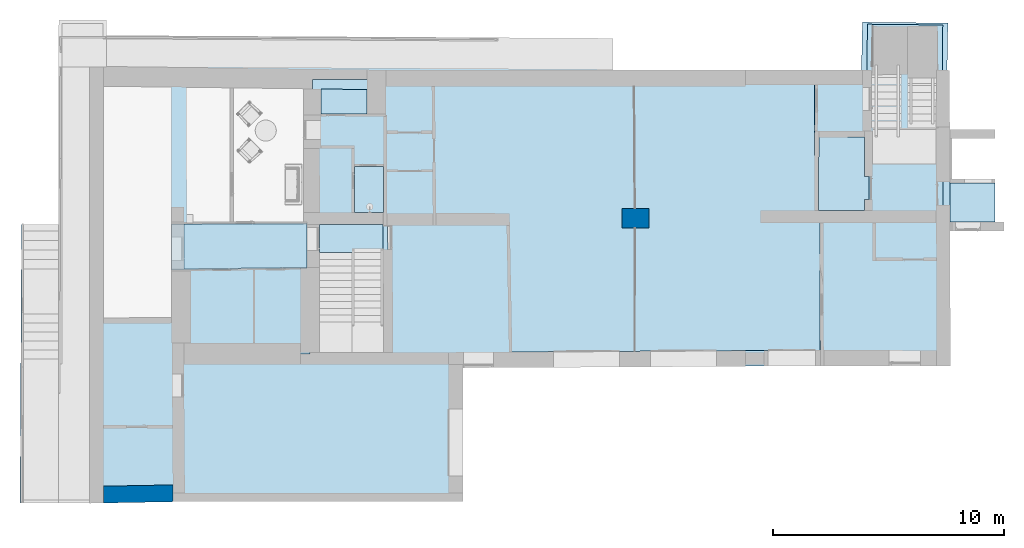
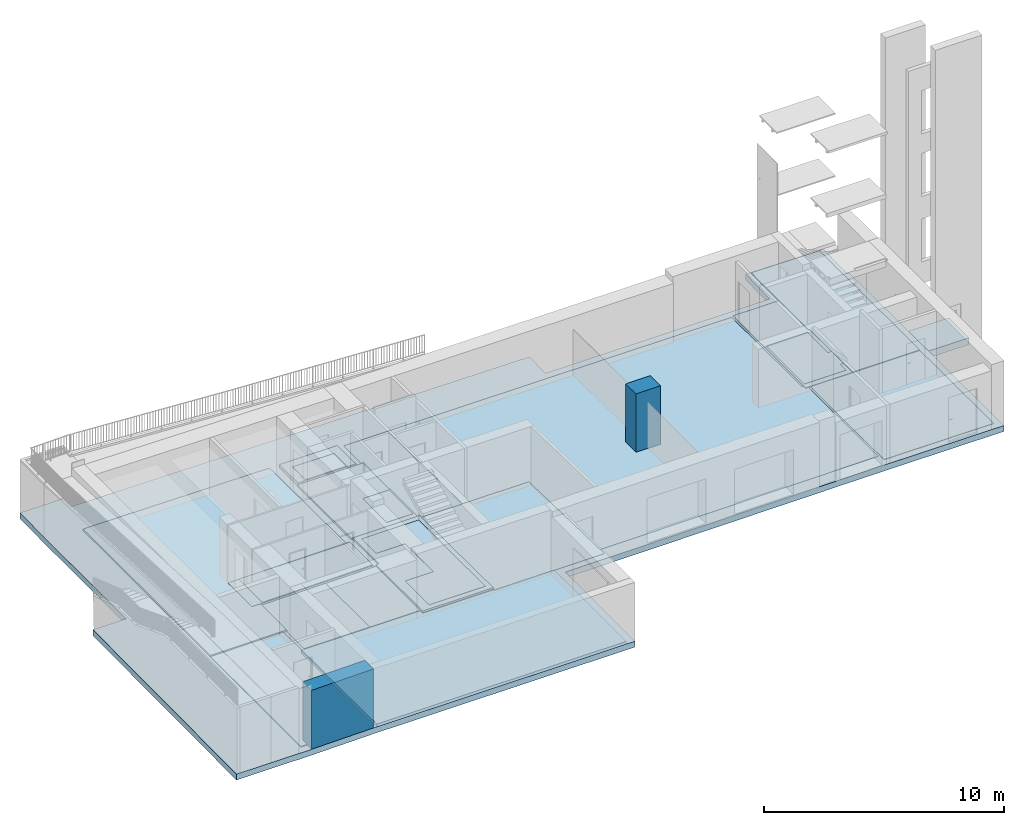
# One storey, part 1 of 17: 22 slabs, 1 column, 1 wall.
"""IFC2X3 building model written with IfcOpenShell, lengths in millimetres."""

from ifc_helpers import new_model, entity, si_unit, converted_unit, derived_unit, direction, frame, frame_2d, origin, origin_2d_with_axis, place, context, subcontext, project, spatial, polyline, rectangle, outline, extrude, clip, bounded_halfspace, source, transform, mapped, material, layer, layer_set, layer_usage, type_object, type_shapes, element, save


model = new_model("IFC2X3")

# Units and contexts
model_context = context("Model", 3, precision=0.01, world=origin(), true_north=direction((6.12303176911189e-17, 1.0)))
context_of_model = context(None, 3, precision=0.01, world=origin(), true_north=direction((6.12303176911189e-17, 1.0)))
body_context = subcontext(model_context, "Body", "Model", "MODEL_VIEW")
ifc_project = project(units=[si_unit("LENGTHUNIT", "METRE", prefix="MILLI"), si_unit("AREAUNIT", "SQUARE_METRE"), si_unit("VOLUMEUNIT", "CUBIC_METRE"), converted_unit("PLANEANGLEUNIT", "DEGREE", entity("IfcRatioMeasure", 0.0174532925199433), si_unit("PLANEANGLEUNIT", "RADIAN"), dimensions=[0, 0, 0, 0, 0, 0, 0]), si_unit("MASSUNIT", "GRAM", prefix="KILO"), derived_unit("MASSDENSITYUNIT", [(si_unit("MASSUNIT", "GRAM", prefix="KILO"), 1), (si_unit("LENGTHUNIT", "METRE"), -3)]), si_unit("TIMEUNIT", "SECOND"), si_unit("FREQUENCYUNIT", "HERTZ"), si_unit("THERMODYNAMICTEMPERATUREUNIT", "DEGREE_CELSIUS"), derived_unit("THERMALTRANSMITTANCEUNIT", [(si_unit("MASSUNIT", "GRAM", prefix="KILO"), 1), (si_unit("THERMODYNAMICTEMPERATUREUNIT", "KELVIN"), -1), (si_unit("TIMEUNIT", "SECOND"), -3)]), derived_unit("VOLUMETRICFLOWRATEUNIT", [(si_unit("LENGTHUNIT", "METRE"), 3), (si_unit("TIMEUNIT", "SECOND"), -1)]), si_unit("ELECTRICCURRENTUNIT", "AMPERE"), si_unit("ELECTRICVOLTAGEUNIT", "VOLT"), si_unit("POWERUNIT", "WATT"), si_unit("FORCEUNIT", "NEWTON", prefix="KILO"), si_unit("ILLUMINANCEUNIT", "LUX"), si_unit("LUMINOUSFLUXUNIT", "LUMEN"), si_unit("LUMINOUSINTENSITYUNIT", "CANDELA"), derived_unit("USERDEFINED", [(si_unit("MASSUNIT", "GRAM", prefix="KILO"), -1), (si_unit("LENGTHUNIT", "METRE"), -2), (si_unit("TIMEUNIT", "SECOND"), 3), (si_unit("LUMINOUSFLUXUNIT", "LUMEN"), 1)]), derived_unit("LINEARVELOCITYUNIT", [(si_unit("LENGTHUNIT", "METRE"), 1), (si_unit("TIMEUNIT", "SECOND"), -1)]), si_unit("PRESSUREUNIT", "PASCAL"), derived_unit("USERDEFINED", [(si_unit("LENGTHUNIT", "METRE"), -2), (si_unit("MASSUNIT", "GRAM", prefix="KILO"), 1), (si_unit("TIMEUNIT", "SECOND"), -2)])], contexts=[model_context, context_of_model])

# Site, building, storey
site_placement = place(None, frame((121442.264707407, 135347.995453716, -1800.0)))
site = spatial("IfcSite", under=ifc_project, at=site_placement, Name="Surface", CompositionType="ELEMENT")
building_placement = place(site_placement, origin())
building = spatial("IfcBuilding", under=site, at=building_placement, CompositionType="ELEMENT")
storey_placement = place(building_placement, frame((0.0, 0.0, -1490.0)))
storey = spatial("IfcBuildingStorey", under=building, at=storey_placement, Name="Kelder", CompositionType="ELEMENT", Elevation=-1489.99999999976)

# Column
column_type = type_object("IfcColumnType", Name="Columns 6", PredefinedType="COLUMN")
shared_shape = source(origin(), body_context, "Body", "SweptSolid", [
    extrude(rectangle(XDim=851.392345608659, YDim=1179.41481189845, at=frame_2d((-8.66862137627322e-12, -8.64019966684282e-12), x_axis=(1.0, 0.0))), frame((-95603.5192616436, -121278.149282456, -1490.0), z_axis=(0.0, 0.0, 1.0), x_axis=(0.0, -1.0, 0.0)), (0.0, 0.0, 1.0), 2970.1543988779),
])
type_shapes(column_type, [shared_shape])
column_placement = place(storey_placement, frame((0.0, 0.0, 1490.0)))
element("IfcColumn", 1, at=column_placement, inside=storey, type_object=column_type, Name="Columns 6:Columns 6", ObjectType="Columns 6", context=body_context, shape_type="MappedRepresentation", body=[
    mapped(shared_shape, transform((0.0, 0.0, 0.0), scale=1.0)),
])

# Slabs
ifc_material_1 = material(Name="Concrete - Cast In Situ")
ifc_layer_1 = layer(ifc_material_1, 150.0)
ifc_layer_set_1 = layer_set([ifc_layer_1], Name="Floor:Generic 150mm")
ifc_layer_usage_1 = layer_usage(ifc_layer_set_1, "AXIS3", "POSITIVE", 0.0)
slab_1_placement = place(storey_placement, origin())
element("IfcSlab", 2, at=slab_1_placement, inside=storey, material=ifc_layer_usage_1, Name="Floor:Generic 150mm", ObjectType="Floor:Generic 150mm", PredefinedType="FLOOR", context=body_context, shape_type="SweptSolid", body=[
    extrude(outline(polyline([(-4255.90683201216, -4043.49359627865), (6352.14022453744, -4043.49359627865), (6301.7931967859, 4894.15796776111), (-5.12348534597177, 4926.68577573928), (-57.2377191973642, -508.464137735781), (-2052.46510422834, -508.464137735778), (-2050.68669492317, -358.464137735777), (-4232.51358561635, -358.464137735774), (-4255.90683201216, -4043.49359627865)])), frame((-114941.237681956, -121469.799587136, 87.0), z_axis=(0.0, 0.0, -1.0), x_axis=(0.0, 1.0, 0.0)), (0.0, 0.0, 1.0), 150.0),
])
ifc_layer_usage_2 = layer_usage(ifc_layer_set_1, "AXIS3", "POSITIVE", 0.0)
slab_2_placement = place(storey_placement, origin())
element("IfcSlab", 3, at=slab_2_placement, inside=storey, material=ifc_layer_usage_2, Name="Floor:Generic 150mm", ObjectType="Floor:Generic 150mm", PredefinedType="FLOOR", context=body_context, shape_type="SweptSolid", body=[
    extrude(outline(polyline([(-3793.27666224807, -1776.43241651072), (3748.98435681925, -1776.43241651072), (3771.35729410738, 1747.87248696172), (-3727.06498867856, 1804.99234605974), (-3793.27666224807, -1776.43241651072)])), frame((-117208.298861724, -129474.690775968, 30.0), z_axis=(0.0, 0.0, -1.0), x_axis=(0.0, 1.0, 0.0)), (0.0, 0.0, 1.0), 150.0),
])
ifc_layer_usage_3 = layer_usage(ifc_layer_set_1, "AXIS3", "POSITIVE", 0.0)
slab_3_placement = place(storey_placement, origin())
element("IfcSlab", 4, at=slab_3_placement, inside=storey, material=ifc_layer_usage_3, Name="Floor:Generic 150mm", ObjectType="Floor:Generic 150mm", PredefinedType="FLOOR", context=body_context, shape_type="SweptSolid", body=[
    extrude(outline(polyline([(-1028.67064356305, -2940.27686933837), (966.556741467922, -2940.27686933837), (1021.06433573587, 2940.27686933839), (-958.950433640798, 2940.27686933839), (-1028.67064356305, -2940.27686933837)])), frame((-112779.510747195, -122493.594047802, 87.0), z_axis=(0.0, 0.0, -1.0), x_axis=(0.0, 1.0, 0.0)), (0.0, 0.0, 1.0), 150.0),
])
ifc_layer_usage_4 = layer_usage(ifc_layer_set_1, "AXIS3", "POSITIVE", 0.0)
slab_4_placement = place(storey_placement, origin())
element("IfcSlab", 5, at=slab_4_placement, inside=storey, material=ifc_layer_usage_4, Name="Floor:Generic 150mm", ObjectType="Floor:Generic 150mm", PredefinedType="FLOOR", context=body_context, shape_type="SweptSolid", body=[
    extrude(outline(polyline([(-1826.235584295, -1576.3807147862), (1807.58177050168, -1576.3807147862), (1844.88939808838, 1570.33254283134), (-1826.23558429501, 1582.42888674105), (-1826.235584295, -1576.3807147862)])), frame((-113723.321104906, -125328.068052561, 5.0), z_axis=(0.0, 0.0, -1.0), x_axis=(0.0, 1.0, 0.0)), (0.0, 0.0, 1.0), 150.0),
])
ifc_layer_usage_5 = layer_usage(ifc_layer_set_1, "AXIS3", "POSITIVE", 0.0)
slab_5_placement = place(storey_placement, origin())
element("IfcSlab", 6, at=slab_5_placement, inside=storey, material=ifc_layer_usage_5, Name="Floor:Generic 150mm", ObjectType="Floor:Generic 150mm", PredefinedType="FLOOR", context=body_context, shape_type="SweptSolid", body=[
    extrude(outline(polyline([(-1216.39615455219, -1842.79125220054), (1210.34798259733, -1842.79125220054), (1222.44432650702, 1828.33373018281), (-1216.39615455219, 1857.24877421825), (-1216.39615455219, -1842.79125220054)])), frame((-110930.544235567, -125311.512384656, 0.0), z_axis=(0.0, 0.0, -1.0), x_axis=(-1.0, 0.0, 0.0)), (0.0, 0.0, 1.0), 150.0),
])
ifc_layer_usage_6 = layer_usage(ifc_layer_set_1, "AXIS3", "POSITIVE", 0.0)
slab_6_placement = place(storey_placement, origin())
element("IfcSlab", 7, at=slab_6_placement, inside=storey, material=ifc_layer_usage_6, Name="Floor:Generic 150mm", ObjectType="Floor:Generic 150mm", PredefinedType="FLOOR", context=body_context, shape_type="SweptSolid", body=[
    extrude(outline(polyline([(-1941.10510477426, -6117.88267628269), (4078.16335306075, -6117.88267628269), (4086.25706603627, 5890.9759524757), (-2141.10510477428, 5938.41340482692), (-2141.10510477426, 203.187997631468), (-1941.10510477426, 203.187997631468), (-1941.10510477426, -6117.88267628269)])), frame((-109510.960083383, -129295.40874163, -20.0), z_axis=(0.0, 0.0, -1.0), x_axis=(0.0, -1.0, 0.0)), (0.0, 0.0, 1.0), 150.0),
])
ifc_layer_usage_7 = layer_usage(ifc_layer_set_1, "AXIS3", "POSITIVE", 0.0)
slab_7_placement = place(storey_placement, origin())
element("IfcSlab", 8, at=slab_7_placement, inside=storey, material=ifc_layer_usage_7, Name="Floor:Generic 150mm", ObjectType="Floor:Generic 150mm", PredefinedType="FLOOR", context=body_context, shape_type="SweptSolid", body=[
    extrude(outline(polyline([(-3323.15159180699, -1175.15384664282), (576.888434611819, -1175.15384664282), (578.607563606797, -1030.15384664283), (2745.4035926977, -1030.15384664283), (2745.4035926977, 2188.57523780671), (-3323.15159180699, 2222.0401487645), (-3323.15159180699, -1175.15384664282)])), frame((-108538.994234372, -124031.152045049, 87.0), z_axis=(0.0, 0.0, -1.0), x_axis=(0.0, 1.0, 0.0)), (0.0, 0.0, 1.0), 150.0),
])
ifc_layer_2 = layer(ifc_material_1, 200.0)
ifc_layer_set_2 = layer_set([ifc_layer_2], Name="Floor:Generic 2000mm 2")
ifc_layer_usage_8 = layer_usage(ifc_layer_set_2, "AXIS3", "POSITIVE", 0.0)
slab_8_placement = place(storey_placement, origin())
element("IfcSlab", 9, at=slab_8_placement, inside=storey, material=ifc_layer_usage_8, Name="Floor:Generic 2000mm 2", ObjectType="Floor:Generic 2000mm 2", PredefinedType="FLOOR", context=body_context, shape_type="SweptSolid", body=[
    extrude(outline(polyline([(-779.546561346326, -1388.59745723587), (774.070192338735, -1388.59745723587), (774.070192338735, 1383.56877207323), (-768.593823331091, 1393.62614239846), (-779.546561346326, -1388.59745723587)])), frame((-108227.713183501, -116028.23160626, 165.0), z_axis=(0.0, 0.0, -1.0), x_axis=(0.0, 1.0, 0.0)), (0.0, 0.0, 1.0), 200.0),
])
ifc_layer_3 = layer(ifc_material_1, 250.0)
ifc_layer_set_3 = layer_set([ifc_layer_3], Name="Floor:Generic 250mm 3")
ifc_layer_usage_9 = layer_usage(ifc_layer_set_3, "AXIS3", "POSITIVE", 0.0)
slab_9_placement = place(storey_placement, origin())
element("IfcSlab", 10, at=slab_9_placement, inside=storey, material=ifc_layer_usage_9, Name="Floor:Generic 250mm 3", ObjectType="Floor:Generic 250mm 3", PredefinedType="FLOOR", context=body_context, shape_type="SweptSolid", body=[
    extrude(outline(polyline([(-1070.76332594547, -2261.86014157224), (2111.90925794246, -2261.86014157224), (2123.49960733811, 2215.97425359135), (-1046.94110669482, 2228.38209021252), (-1046.9411066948, 39.703364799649), (-1070.76332594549, 39.6605745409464), (-1070.76332594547, -2261.86014157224)])), frame((-107527.329817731, -119023.888310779, 87.0), z_axis=(0.0, 0.0, -1.0), x_axis=(-1.0, 0.0, 0.0)), (0.0, 0.0, 1.0), 250.0),
])
ifc_layer_usage_10 = layer_usage(ifc_layer_set_1, "AXIS3", "POSITIVE", 0.0)
slab_10_placement = place(storey_placement, origin())
element("IfcSlab", 11, at=slab_10_placement, inside=storey, material=ifc_layer_usage_10, Name="Floor:Generic 150mm", ObjectType="Floor:Generic 150mm", PredefinedType="FLOOR", context=body_context, shape_type="SweptSolid", body=[
    extrude(outline(polyline([(-2660.50583444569, -3053.60060797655), (2564.36360746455, -3053.60060797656), (2701.32480091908, 3029.84917943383), (-2605.18257393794, 3077.35203651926), (-2660.50583444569, -3053.60060797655)])), frame((-103700.494088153, -124375.923201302, 0.0), z_axis=(0.0, 0.0, -1.0), x_axis=(0.999993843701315, -0.00350892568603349, 0.0)), (0.0, 0.0, 1.0), 150.0),
])
ifc_layer_usage_11 = layer_usage(ifc_layer_set_1, "AXIS3", "POSITIVE", 0.0)
slab_11_placement = place(storey_placement, origin())
element("IfcSlab", 12, at=slab_11_placement, inside=storey, material=ifc_layer_usage_11, Name="Floor:Generic 150mm", ObjectType="Floor:Generic 150mm", PredefinedType="FLOOR", context=body_context, shape_type="SweptSolid", body=[
    extrude(outline(polyline([(-1439.9510796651, -2827.14340754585), (689.054973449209, -2827.14340754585), (689.054973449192, -476.472151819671), (712.877192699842, -476.429374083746), (745.604382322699, 3303.59417049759), (-1396.64044225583, 3303.59417049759), (-1439.9510796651, -2827.14340754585)])), frame((-105767.511518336, -118507.755584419, 0.0), z_axis=(0.0, 0.0, -1.0), x_axis=(-1.0, 0.0, 0.0)), (0.0, 0.0, 1.0), 150.0),
])
ifc_layer_usage_12 = layer_usage(ifc_layer_set_1, "AXIS3", "POSITIVE", 0.0)
slab_12_placement = place(storey_placement, origin())
element("IfcSlab", 13, at=slab_12_placement, inside=storey, material=ifc_layer_usage_12, Name="Floor:Generic 150mm", ObjectType="Floor:Generic 150mm", PredefinedType="FLOOR", context=body_context, shape_type="SweptSolid", body=[
    extrude(outline(polyline([(-112.697568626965, -7608.95531551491), (5850.2659552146, -7608.95531551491), (5923.27582438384, 5805.33378363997), (179.352774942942, 5914.48721486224), (168.151312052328, 9106.74459882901), (-5947.82536466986, 9159.92688087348), (-5947.82536466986, -7370.24911429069), (-112.697568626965, -7398.33273288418), (-112.697568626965, -7608.95531551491)])), frame((-95210.9441952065, -121151.986778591, 0.0), z_axis=(0.0, 0.0, -1.0), x_axis=(0.0, -1.0, 0.0)), (0.0, 0.0, 1.0), 150.0),
])
ifc_layer_usage_13 = layer_usage(ifc_layer_set_1, "AXIS3", "POSITIVE", 0.0)
slab_13_placement = place(storey_placement, origin())
element("IfcSlab", 14, at=slab_13_placement, inside=storey, material=ifc_layer_usage_13, Name="Floor:Generic 150mm", ObjectType="Floor:Generic 150mm", PredefinedType="FLOOR", context=body_context, shape_type="SweptSolid", body=[
    extrude(outline(polyline([(-1514.05958737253, -3210.65679916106), (759.503405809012, -3210.65679916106), (737.567623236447, 371.883521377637), (764.823671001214, 371.717366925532), (748.277325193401, 2838.85635500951), (-1496.11243786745, 2838.85635500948), (-1514.05958737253, -3210.65679916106)])), frame((-86997.4977551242, -118008.017768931, 25.0), z_axis=(0.0, 0.0, -1.0), x_axis=(-1.0, 0.0, 0.0)), (0.0, 0.0, 1.0), 150.0),
])
ifc_layer_usage_14 = layer_usage(ifc_layer_set_1, "AXIS3", "POSITIVE", 0.0)
slab_14_placement = place(storey_placement, origin())
element("IfcSlab", 15, at=slab_14_placement, inside=storey, material=ifc_layer_usage_14, Name="Floor:Generic 150mm", ObjectType="Floor:Generic 150mm", PredefinedType="FLOOR", context=body_context, shape_type="SweptSolid", body=[
    extrude(outline(polyline([(-2045.73285788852, -4851.54776678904), (1179.86574373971, -4851.54776678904), (1190.40834888, -1255.34566417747), (1245.40483728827, -1255.68092596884), (1257.06762003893, 2191.61370202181), (1230.03830436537, 3507.29564414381), (-2032.33957689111, 3472.30692968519), (-2024.71241953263, 3042.90584787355), (-2045.73285788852, -4851.54776678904)])), frame((-84303.572424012, -116367.126801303, 38.7500000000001), z_axis=(0.0, 0.0, -1.0), x_axis=(-1.0, 0.0, 0.0)), (0.0, 0.0, 1.0), 150.0),
])
ifc_layer_usage_15 = layer_usage(ifc_layer_set_1, "AXIS3", "POSITIVE", 0.0)
slab_15_placement = place(storey_placement, origin())
element("IfcSlab", 16, at=slab_15_placement, inside=storey, material=ifc_layer_usage_15, Name="Floor:Generic 150mm", ObjectType="Floor:Generic 150mm", PredefinedType="FLOOR", context=body_context, shape_type="SweptSolid", body=[
    extrude(outline(polyline([(-2109.29496333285, -2948.63201964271), (3153.70556736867, -2948.63201964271), (3169.62830517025, 3177.0017694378), (-2094.11159793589, 3168.38492544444), (-2119.92731127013, -448.122655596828), (-2109.29496333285, -2948.63201964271)])), frame((-85411.545133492, -124167.306587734, 10.0), z_axis=(0.0, 0.0, -1.0), x_axis=(1.0, 0.0, 0.0)), (0.0, 0.0, 1.0), 150.0),
])
ifc_material_2 = material(Name="<Unnamed>")
ifc_layer_4 = layer(ifc_material_2, 300.0)
ifc_layer_set_4 = layer_set([ifc_layer_4], Name="Pad:Pad 1")
ifc_layer_usage_16 = layer_usage(ifc_layer_set_4, "AXIS3", "POSITIVE", 0.0)
slab_16_placement = place(storey_placement, origin())
element("IfcSlab", 17, at=slab_16_placement, inside=storey, material=ifc_layer_usage_16, Name="Pad:Pad 1", ObjectType="Pad:Pad 1", PredefinedType="FLOOR", context=body_context, shape_type="SweptSolid", body=[
    extrude(outline(polyline([(-8220.44867118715, -17681.9868887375), (-6187.04948877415, -17681.9868887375), (654.817785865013, -17617.0226912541), (669.997024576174, -19215.6622591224), (12743.0885825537, -19165.7106803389), (12714.5540724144, -16160.5272303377), (12727.1743540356, -16160.4073995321), (12626.0431047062, -12546.9682855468), (12497.9956252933, 44.8009514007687), (6701.38052655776, -10.2384746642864), (6463.25759623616, 15493.0443851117), (6418.96202073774, 21130.0796198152), (-3946.6920818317, 21004.7095440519), (-6406.99220485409, 20967.0908675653), (-6407.38604161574, 20863.7743296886), (-8452.44569541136, 20880.6784318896), (-8457.00518627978, 17172.8371946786), (-6389.46571644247, 17149.9976931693), (-6287.12788944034, 6372.03295802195), (-7653.53673456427, 6366.77114444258), (-7568.94110631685, -15601.3607462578), (-8240.17987625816, -15603.945575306), (-8220.44867118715, -17681.9868887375)])), frame((-103009.211999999, -121065.505561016, -300.0), z_axis=(0.0, 0.0, 1.0), x_axis=(-0.0094946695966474, -0.99995492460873, 0.0)), (0.0, 0.0, 1.0), 300.0),
])
ifc_layer_5 = layer(ifc_material_1, 200.0)
ifc_material_3 = material(Name="Polyethylene, High Density")
ifc_layer_6 = layer(ifc_material_3, 150.0)
ifc_layer_set_5 = layer_set([ifc_layer_5, ifc_layer_6], Name="Floor:Porand 200+150 soojustus")
ifc_layer_usage_17 = layer_usage(ifc_layer_set_5, "AXIS3", "POSITIVE", 0.0)
slab_17_placement = place(storey_placement, origin())
element("IfcSlab", 18, at=slab_17_placement, inside=storey, material=ifc_layer_usage_17, Name="Floor:Porand 200+150 soojustus", ObjectType="Floor:Porand 200+150 soojustus", PredefinedType="FLOOR", context=body_context, shape_type="SweptSolid", body=[
    extrude(outline(polyline([(-971.090309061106, -838.905232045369), (968.909690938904, -838.905232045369), (973.270927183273, 838.905232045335), (-971.090309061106, 838.905232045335), (-971.090309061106, -838.905232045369)])), frame((-80988.3714926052, -120594.194700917, 0.0), z_axis=(0.0, 0.0, -1.0), x_axis=(-1.0, 0.0, 0.0)), (0.0, 0.0, 1.0), 350.0),
])
ifc_material_4 = material(Name="EST. Põrand. Plaatkate")
ifc_layer_7 = layer(ifc_material_4, 3.0)
ifc_layer_set_6 = layer_set([ifc_layer_7], Name="Floor:Keraamiline plaat 200x200")
ifc_layer_usage_18 = layer_usage(ifc_layer_set_6, "AXIS3", "POSITIVE", 0.0)
slab_18_placement = place(storey_placement, origin())
element("IfcSlab", 19, at=slab_18_placement, inside=storey, material=ifc_layer_usage_18, Name="Floor:Keraamiline plaat 200x200", ObjectType="Floor:Keraamiline plaat 200x200", PredefinedType="FLOOR", context=body_context, shape_type="SweptSolid", body=[
    extrude(outline(polyline([(-532.951081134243, -993.616209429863), (545.281288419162, -993.616209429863), (520.62087384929, 993.61620942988), (-532.951081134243, 993.61620942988), (-532.951081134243, -993.616209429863)])), frame((-108242.694431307, -116214.827551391, 168.0), z_axis=(0.0, 0.0, -1.0), x_axis=(0.0, 1.0, 0.0)), (0.0, 0.0, 1.0), 3.00000000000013),
])
ifc_layer_usage_19 = layer_usage(ifc_layer_set_6, "AXIS3", "POSITIVE", 0.0)
slab_19_placement = place(storey_placement, origin())
element("IfcSlab", 20, at=slab_19_placement, inside=storey, material=ifc_layer_usage_19, Name="Floor:Keraamiline plaat 200x200", ObjectType="Floor:Keraamiline plaat 200x200", PredefinedType="FLOOR", context=body_context, shape_type="SweptSolid", body=[
    extrude(rectangle(XDim=1997.53757752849, YDim=1265.96896872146, at=origin_2d_with_axis()), frame((-107159.550976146, -120031.979663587, 90.0), z_axis=(0.0, 0.0, -1.0), x_axis=(0.0, 1.0, 0.0)), (0.0, 0.0, 1.0), 3.00000000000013),
])
ifc_layer_usage_20 = layer_usage(ifc_layer_set_6, "AXIS3", "POSITIVE", 0.0)
slab_20_placement = place(storey_placement, origin())
element("IfcSlab", 21, at=slab_20_placement, inside=storey, material=ifc_layer_usage_20, Name="Floor:Keraamiline plaat 200x200", ObjectType="Floor:Keraamiline plaat 200x200", PredefinedType="FLOOR", context=body_context, shape_type="SweptSolid", body=[
    extrude(outline(polyline([(-454.088058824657, -1289.24269873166), (1552.02776329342, -1289.24269873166), (1532.50058965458, 1899.92489426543), (-454.088058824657, 1899.92489426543), (-454.088058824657, 194.924894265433), (-634.088058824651, 194.924894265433), (-634.088058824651, -805.607089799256), (-454.088058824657, -805.607089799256), (-454.088058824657, -1289.24269873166)])), frame((-86113.3185089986, -119659.43186936, 28.0), z_axis=(0.0, 0.0, -1.0), x_axis=(-1.0, 0.0, 0.0)), (0.0, 0.0, 1.0), 3.00000000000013),
])
ifc_material_5 = material(Name="Plaadi muster")
ifc_layer_8 = layer(ifc_material_5, 3.0)
ifc_layer_set_7 = layer_set([ifc_layer_8], Name="Floor:Keraamiline plaat 600X300")
ifc_layer_usage_21 = layer_usage(ifc_layer_set_7, "AXIS3", "POSITIVE", 0.0)
slab_21_placement = place(storey_placement, origin())
element("IfcSlab", 22, at=slab_21_placement, inside=storey, material=ifc_layer_usage_21, Name="Floor:Keraamiline plaat 600X300", ObjectType="Floor:Keraamiline plaat 600X300", PredefinedType="FLOOR", context=body_context, shape_type="SweptSolid", body=[
    extrude(outline(polyline([(1365.49085061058, -1046.50488041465), (2584.83638312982, -1046.50488041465), (2584.8363831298, 1698.62727884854), (-2975.1636168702, 1698.62727884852), (-2975.16361687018, -1001.37272115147), (-975.163616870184, -1001.37272115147), (-975.163616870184, 349.250322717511), (1365.49085061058, 349.250322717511), (1365.49085061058, -1046.50488041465)])), frame((-108252.6432006, -124125.584835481, 90.0), z_axis=(0.0, 0.0, -1.0), x_axis=(0.0, 1.0, 0.0)), (0.0, 0.0, 1.0), 3.00000000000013),
])
ifc_layer_usage_22 = layer_usage(ifc_layer_set_7, "AXIS3", "POSITIVE", 0.0)
slab_22_placement = place(storey_placement, origin())
element("IfcSlab", 23, at=slab_22_placement, inside=storey, material=ifc_layer_usage_22, Name="Floor:Keraamiline plaat 600X300", ObjectType="Floor:Keraamiline plaat 600X300", PredefinedType="FLOOR", context=body_context, shape_type="SweptSolid", body=[
    extrude(outline(polyline([(-992.942604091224, -2672.77686933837), (961.25399572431, -2672.77686933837), (961.253995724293, 2672.77686933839), (-929.565387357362, 2672.77686933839), (-992.942604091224, -2672.77686933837)])), frame((-112511.924950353, -122481.177068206, 90.0), z_axis=(0.0, 0.0, -1.0), x_axis=(0.0, 1.0, 0.0)), (0.0, 0.0, 1.0), 3.00000000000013),
])

# Wall
ifc_material_6 = material(Name="__Betoonelement")
ifc_layer_9 = layer(ifc_material_6, 730.0)
ifc_layer_set_8 = layer_set([ifc_layer_9], Name="Basic Wall:73_Betoon 3")
ifc_layer_usage_23 = layer_usage(ifc_layer_set_8, "AXIS2", "NEGATIVE", 365.0)
wall_type = type_object("IfcWallType", Name="Basic Wall:73_Betoon 3", PredefinedType="STANDARD", material=ifc_layer_set_8)
wall_placement = place(storey_placement, frame((-115659.311155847, -133206.488656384, 0.0), z_axis=(0.0, 0.0, 1.0), x_axis=(-0.999829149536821, -0.0184843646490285, 0.0)))
element("IfcWallStandardCase", 24, at=wall_placement, inside=storey, type_object=wall_type, material=ifc_layer_usage_23, Name="Basic Wall:73_Betoon 3", ObjectType="Basic Wall:73_Betoon 3", context=body_context, shape_type="Clipping", body=[
    clip(extrude(outline(polyline([(3014.18830475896, -365.0), (3027.68419673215, 365.0), (7.93393855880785, 365.0), (3.80699105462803, -14.7195624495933), (0.0, -365.0), (3014.18830475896, -365.0)])), origin(), (0.0, 0.0, 1.0), 2997.0), bounded_halfspace(frame((0.0, -365.0, 2997.0), z_axis=(0.0, 0.0, -1.0), x_axis=(0.0184843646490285, 0.999829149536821, 0.0)), True, frame((0.0, -365.0, 2997.0)), polyline([(0.0, 0.0), (59.9326706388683, 0.0), (69.2014907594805, 501.355427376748), (5.46174305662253, 502.533817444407), (3.80699105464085, 350.280437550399), (0.0, 0.0)]))),
])

save(model, "model.ifc")
